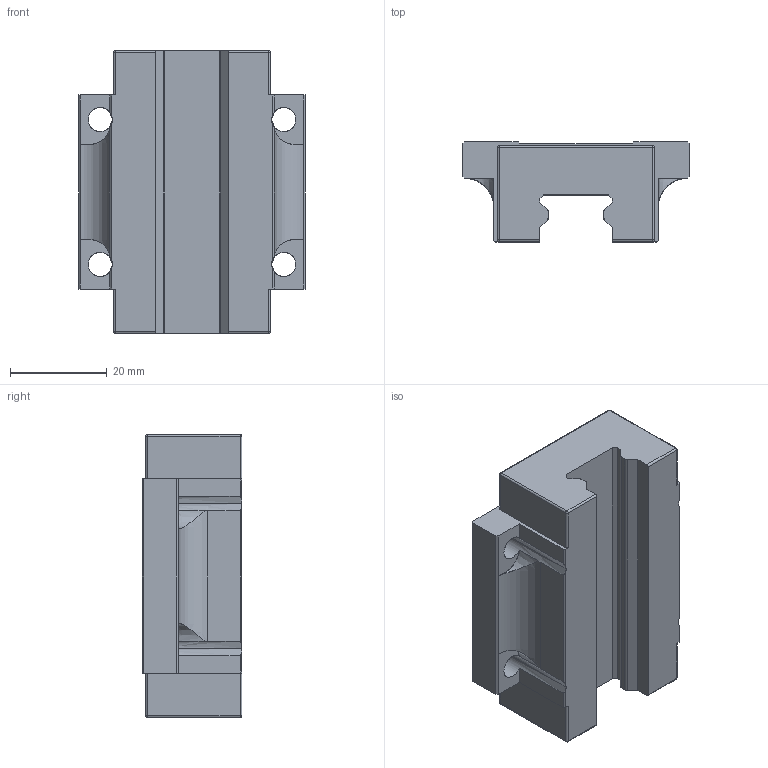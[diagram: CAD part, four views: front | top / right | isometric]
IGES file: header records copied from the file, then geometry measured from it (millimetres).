
Start section: SolidWorks IGES file using analytic representation for surfaces
Global section: file name: C:\Users\IanO\Desktop\Temp File\GENERAL\L1016_v2\L1016.F-BC_v2\L1016.F-BC_v2_20190612_IGES\L1016.F15-BC.igs; native system: SolidWorks 2017; preprocessor: SolidWorks 2017; author: IanO; date: 190613.152222; units: millimetre
Bounding box: 47 x 20.7 x 58.6 mm (x, y, z)
Surface area: 10085.5 mm2 (no closed solid volume)
Topology: 0 solids, 0 shells, 100 faces, 948 edges, 940 vertices
Faces by surface type: bspline 56, revolution 44
